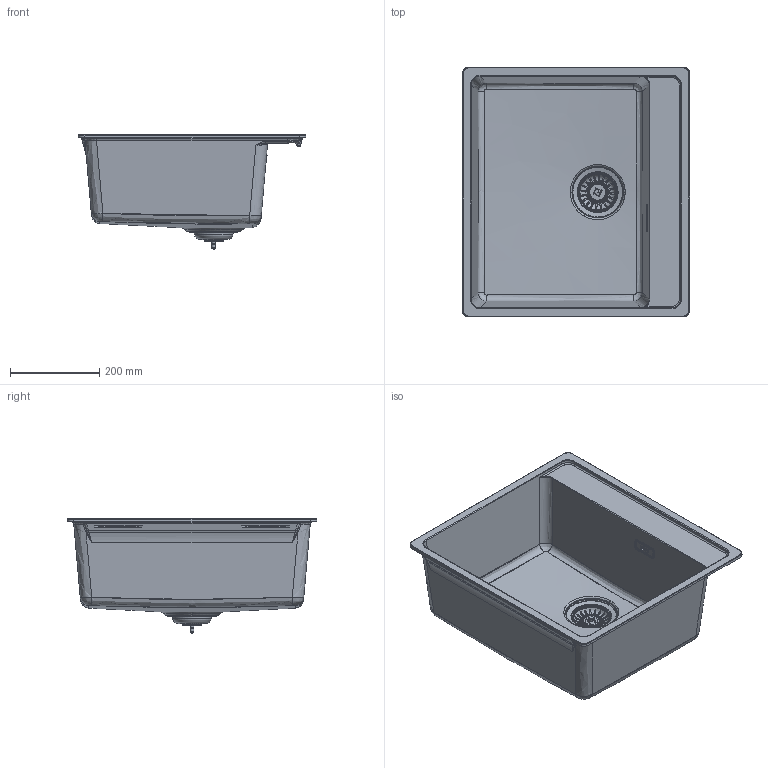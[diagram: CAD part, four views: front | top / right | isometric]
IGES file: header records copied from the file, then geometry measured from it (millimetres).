
Global section: file name: F:\_CONVERSIONE_CAD_2024_2025\_2024\03_3D kits new\Sinks\MARIS\114.0706.745 3D001_Sinks_Maris_MRG-610-52-TL\_LAB\3D001_Sinks_Maris_MRG-610-52-TL.igs; native system: Rhinoceros ( Feb 13 2024 ); preprocessor: Trout Lake IGES 012 Feb 13 2024; date: 240318.105641; units: millimetre
Bounding box: 510 x 560 x 256 mm (x, y, z)
Surface area: 1227984.6 mm2 (no closed solid volume)
Topology: 0 solids, 0 shells, 1487 faces, 8943 edges, 8874 vertices
Faces by surface type: bspline 1487
